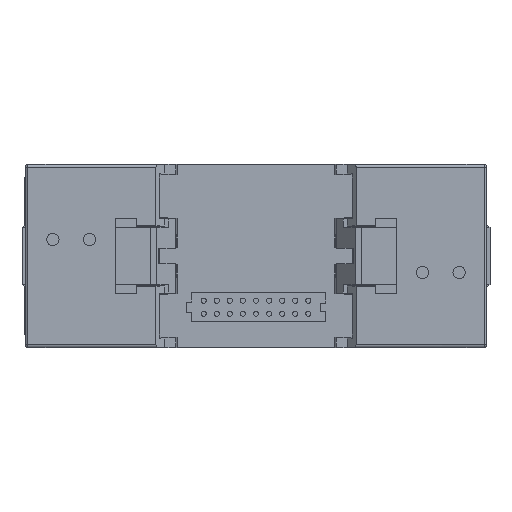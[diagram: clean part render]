
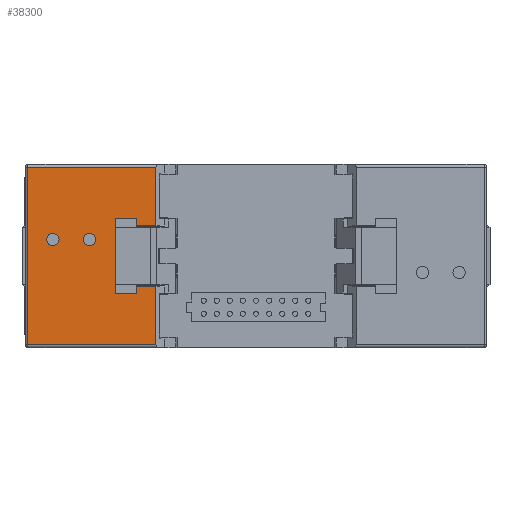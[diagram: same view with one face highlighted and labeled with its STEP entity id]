
A CAD part, front view. The second image highlights one B-rep face of the part: STEP entity #38300.
In plain terms, the highlighted planar face has unit normal (0, -1, 0).
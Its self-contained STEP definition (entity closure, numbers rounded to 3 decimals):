
#212 = EDGE_CURVE ( 'NONE', #56154, #8025, #3547, .T. ) ;
#289 = AXIS2_PLACEMENT_3D ( 'NONE', #54823, #19436, #60790 ) ;
#957 = DIRECTION ( 'NONE',  ( 1., 0., 0. ) ) ;
#1095 = EDGE_CURVE ( 'NONE', #56154, #29696, #72709, .T. ) ;
#1121 = CARTESIAN_POINT ( 'NONE',  ( -22.904, -6., 13.854 ) ) ;
#1330 = EDGE_CURVE ( 'NONE', #29122, #57494, #37475, .T. ) ;
#1972 = ORIENTED_EDGE ( 'NONE', *, *, #63409, .T. ) ;
#2254 = VECTOR ( 'NONE', #7042, 1000. ) ;
#2694 = FACE_OUTER_BOUND ( 'NONE', #4182, .T. ) ;
#3031 = ORIENTED_EDGE ( 'NONE', *, *, #14048, .T. ) ;
#3547 = LINE ( 'NONE', #42301, #35006 ) ;
#3897 = DIRECTION ( 'NONE',  ( 0., 0., -1. ) ) ;
#4182 = EDGE_LOOP ( 'NONE', ( #18899, #11120, #17743, #22721, #61049, #13346, #3031, #60882, #19696, #63292, #52717, #27731 ) ) ;
#5134 = CARTESIAN_POINT ( 'NONE',  ( -22.904, -6., 13.9 ) ) ;
#6177 = CARTESIAN_POINT ( 'NONE',  ( -32.15, -6., 22.9 ) ) ;
#6385 = FACE_BOUND ( 'NONE', #73454, .T. ) ;
#6466 = CARTESIAN_POINT ( 'NONE',  ( -39.25, -6., 22.9 ) ) ;
#7042 = DIRECTION ( 'NONE',  ( -1., 0., 0. ) ) ;
#7155 = DIRECTION ( 'NONE',  ( 0., 0., 1. ) ) ;
#7305 = CARTESIAN_POINT ( 'NONE',  ( 27.858, -6., 27.049 ) ) ;
#7485 = LINE ( 'NONE', #48137, #38947 ) ;
#7613 = VERTEX_POINT ( 'NONE', #35340 ) ;
#8025 = VERTEX_POINT ( 'NONE', #33862 ) ;
#8843 = LINE ( 'NONE', #9659, #47680 ) ;
#9659 = CARTESIAN_POINT ( 'NONE',  ( -19.2, -6., 35.539 ) ) ;
#9953 = CARTESIAN_POINT ( 'NONE',  ( -39.25, -6., 22.9 ) ) ;
#10778 = LINE ( 'NONE', #62366, #26514 ) ;
#10798 = EDGE_CURVE ( 'NONE', #57494, #29696, #47828, .T. ) ;
#11120 = ORIENTED_EDGE ( 'NONE', *, *, #64373, .T. ) ;
#11495 = CARTESIAN_POINT ( 'NONE',  ( -32.15, -6., 21.7 ) ) ;
#11615 = VECTOR ( 'NONE', #957, 1000. ) ;
#12125 = DIRECTION ( 'NONE',  ( 0., 0., 1. ) ) ;
#12410 = DIRECTION ( 'NONE',  ( 0., 0., -1. ) ) ;
#12707 = DIRECTION ( 'NONE',  ( 1., 0., 0. ) ) ;
#12778 = CARTESIAN_POINT ( 'NONE',  ( -19.2, -6., 2.4 ) ) ;
#13346 = ORIENTED_EDGE ( 'NONE', *, *, #42981, .T. ) ;
#13649 = VECTOR ( 'NONE', #68008, 1000. ) ;
#14048 = EDGE_CURVE ( 'NONE', #67087, #29122, #8843, .T. ) ;
#15911 = DIRECTION ( 'NONE',  ( 0., 0., -1. ) ) ;
#16386 = AXIS2_PLACEMENT_3D ( 'NONE', #9953, #51283, #15911 ) ;
#17743 = ORIENTED_EDGE ( 'NONE', *, *, #47097, .T. ) ;
#18081 = CARTESIAN_POINT ( 'NONE',  ( -19.2, -6., 37. ) ) ;
#18752 = PLANE ( 'NONE',  #43532 ) ;
#18899 = ORIENTED_EDGE ( 'NONE', *, *, #53303, .T. ) ;
#19436 = DIRECTION ( 'NONE',  ( 0., 1., 0. ) ) ;
#19696 = ORIENTED_EDGE ( 'NONE', *, *, #10798, .T. ) ;
#20651 = VERTEX_POINT ( 'NONE', #56628 ) ;
#20801 = DIRECTION ( 'NONE',  ( -1., 0., 0. ) ) ;
#20989 = AXIS2_PLACEMENT_3D ( 'NONE', #6177, #47556, #12125 ) ;
#21531 = VERTEX_POINT ( 'NONE', #52531 ) ;
#22409 = LINE ( 'NONE', #74769, #67719 ) ;
#22721 = ORIENTED_EDGE ( 'NONE', *, *, #25032, .T. ) ;
#24509 = LINE ( 'NONE', #37258, #69827 ) ;
#24959 = DIRECTION ( 'NONE',  ( 0., -1., 0. ) ) ;
#25032 = EDGE_CURVE ( 'NONE', #61700, #47847, #24509, .T. ) ;
#25964 = DIRECTION ( 'NONE',  ( 0., 0., -1. ) ) ;
#26514 = VECTOR ( 'NONE', #38849, 1000. ) ;
#27731 = ORIENTED_EDGE ( 'NONE', *, *, #44801, .F. ) ;
#29122 = VERTEX_POINT ( 'NONE', #59762 ) ;
#29696 = VERTEX_POINT ( 'NONE', #71327 ) ;
#30498 = EDGE_CURVE ( 'NONE', #47847, #47392, #39286, .T. ) ;
#32120 = VECTOR ( 'NONE', #64302, 1000. ) ;
#33862 = CARTESIAN_POINT ( 'NONE',  ( -27.15, -6., 27.049 ) ) ;
#34147 = FACE_BOUND ( 'NONE', #39751, .T. ) ;
#35006 = VECTOR ( 'NONE', #7155, 1000. ) ;
#35340 = CARTESIAN_POINT ( 'NONE',  ( -39.25, -6., 24.1 ) ) ;
#37258 = CARTESIAN_POINT ( 'NONE',  ( -40.542, -6., 37. ) ) ;
#37475 = LINE ( 'NONE', #62150, #53129 ) ;
#38007 = DIRECTION ( 'NONE',  ( -1., 0., 0. ) ) ;
#38300 = ADVANCED_FACE ( 'NONE', ( #6385, #34147, #2694 ), #18752, .T. ) ;
#38849 = DIRECTION ( 'NONE',  ( 0., 0., 1. ) ) ;
#38947 = VECTOR ( 'NONE', #12707, 1000. ) ;
#39286 = LINE ( 'NONE', #67562, #70779 ) ;
#39751 = EDGE_LOOP ( 'NONE', ( #71305, #53334 ) ) ;
#42248 = CIRCLE ( 'NONE', #16386, 1.2 ) ;
#42274 = VERTEX_POINT ( 'NONE', #58045 ) ;
#42276 = CARTESIAN_POINT ( 'NONE',  ( 29.809, -6., 12.346 ) ) ;
#42301 = CARTESIAN_POINT ( 'NONE',  ( -27.15, -6., 35.539 ) ) ;
#42981 = EDGE_CURVE ( 'NONE', #47392, #67087, #7485, .T. ) ;
#43532 = AXIS2_PLACEMENT_3D ( 'NONE', #60357, #24959, #66297 ) ;
#44801 = EDGE_CURVE ( 'NONE', #64988, #8025, #47563, .T. ) ;
#45075 = DIRECTION ( 'NONE',  ( 0., 0., 1. ) ) ;
#46261 = CARTESIAN_POINT ( 'NONE',  ( -27.15, -6., 12.346 ) ) ;
#46786 = VERTEX_POINT ( 'NONE', #11495 ) ;
#47097 = EDGE_CURVE ( 'NONE', #48283, #61700, #10778, .T. ) ;
#47392 = VERTEX_POINT ( 'NONE', #65150 ) ;
#47556 = DIRECTION ( 'NONE',  ( 0., 1., 0. ) ) ;
#47563 = LINE ( 'NONE', #7305, #2254 ) ;
#47680 = VECTOR ( 'NONE', #45075, 1000. ) ;
#47824 = DIRECTION ( 'NONE',  ( 0., 1., 0. ) ) ;
#47828 = LINE ( 'NONE', #5134, #32120 ) ;
#47847 = VERTEX_POINT ( 'NONE', #69439 ) ;
#48137 = CARTESIAN_POINT ( 'NONE',  ( -40.542, -6., 2.4 ) ) ;
#48283 = VERTEX_POINT ( 'NONE', #61107 ) ;
#51283 = DIRECTION ( 'NONE',  ( 0., 1., 0. ) ) ;
#52531 = CARTESIAN_POINT ( 'NONE',  ( -39.25, -6., 21.7 ) ) ;
#52717 = ORIENTED_EDGE ( 'NONE', *, *, #212, .T. ) ;
#53129 = VECTOR ( 'NONE', #20801, 1000. ) ;
#53303 = EDGE_CURVE ( 'NONE', #64988, #20651, #22409, .T. ) ;
#53334 = ORIENTED_EDGE ( 'NONE', *, *, #65883, .T. ) ;
#54823 = CARTESIAN_POINT ( 'NONE',  ( -32.15, -6., 22.9 ) ) ;
#55020 = EDGE_CURVE ( 'NONE', #42274, #46786, #57658, .T. ) ;
#56154 = VERTEX_POINT ( 'NONE', #46261 ) ;
#56512 = CARTESIAN_POINT ( 'NONE',  ( -22.904, -6., 27.049 ) ) ;
#56628 = CARTESIAN_POINT ( 'NONE',  ( -22.904, -6., 25.546 ) ) ;
#57494 = VERTEX_POINT ( 'NONE', #1121 ) ;
#57658 = CIRCLE ( 'NONE', #20989, 1.2 ) ;
#58045 = CARTESIAN_POINT ( 'NONE',  ( -32.15, -6., 24.1 ) ) ;
#58433 = CIRCLE ( 'NONE', #59939, 1.2 ) ;
#59133 = CIRCLE ( 'NONE', #289, 1.2 ) ;
#59762 = CARTESIAN_POINT ( 'NONE',  ( -19.2, -6., 13.854 ) ) ;
#59939 = AXIS2_PLACEMENT_3D ( 'NONE', #6466, #47824, #12410 ) ;
#60357 = CARTESIAN_POINT ( 'NONE',  ( -40.542, -6., 35.539 ) ) ;
#60790 = DIRECTION ( 'NONE',  ( 0., 0., 1. ) ) ;
#60882 = ORIENTED_EDGE ( 'NONE', *, *, #1330, .T. ) ;
#61049 = ORIENTED_EDGE ( 'NONE', *, *, #30498, .T. ) ;
#61107 = CARTESIAN_POINT ( 'NONE',  ( -19.2, -6., 25.546 ) ) ;
#61700 = VERTEX_POINT ( 'NONE', #18081 ) ;
#62046 = CARTESIAN_POINT ( 'NONE',  ( -40.542, -6., 25.546 ) ) ;
#62150 = CARTESIAN_POINT ( 'NONE',  ( -40.542, -6., 13.854 ) ) ;
#62265 = ORIENTED_EDGE ( 'NONE', *, *, #71576, .T. ) ;
#62366 = CARTESIAN_POINT ( 'NONE',  ( -19.2, -6., 35.539 ) ) ;
#63292 = ORIENTED_EDGE ( 'NONE', *, *, #1095, .F. ) ;
#63409 = EDGE_CURVE ( 'NONE', #7613, #21531, #58433, .T. ) ;
#64302 = DIRECTION ( 'NONE',  ( 0., 0., -1. ) ) ;
#64373 = EDGE_CURVE ( 'NONE', #20651, #48283, #74762, .T. ) ;
#64988 = VERTEX_POINT ( 'NONE', #56512 ) ;
#65150 = CARTESIAN_POINT ( 'NONE',  ( -44.1, -6., 2.4 ) ) ;
#65883 = EDGE_CURVE ( 'NONE', #46786, #42274, #59133, .T. ) ;
#66297 = DIRECTION ( 'NONE',  ( 0., 0., -1. ) ) ;
#67087 = VERTEX_POINT ( 'NONE', #12778 ) ;
#67562 = CARTESIAN_POINT ( 'NONE',  ( -44.1, -6., 35.539 ) ) ;
#67719 = VECTOR ( 'NONE', #3897, 1000. ) ;
#68008 = DIRECTION ( 'NONE',  ( 1., 0., 0. ) ) ;
#69439 = CARTESIAN_POINT ( 'NONE',  ( -44.1, -6., 37. ) ) ;
#69827 = VECTOR ( 'NONE', #38007, 1000. ) ;
#70779 = VECTOR ( 'NONE', #25964, 1000. ) ;
#71305 = ORIENTED_EDGE ( 'NONE', *, *, #55020, .T. ) ;
#71327 = CARTESIAN_POINT ( 'NONE',  ( -22.904, -6., 12.346 ) ) ;
#71576 = EDGE_CURVE ( 'NONE', #21531, #7613, #42248, .T. ) ;
#72709 = LINE ( 'NONE', #42276, #11615 ) ;
#73454 = EDGE_LOOP ( 'NONE', ( #62265, #1972 ) ) ;
#74762 = LINE ( 'NONE', #62046, #13649 ) ;
#74769 = CARTESIAN_POINT ( 'NONE',  ( -22.904, -6., 35.539 ) ) ;
